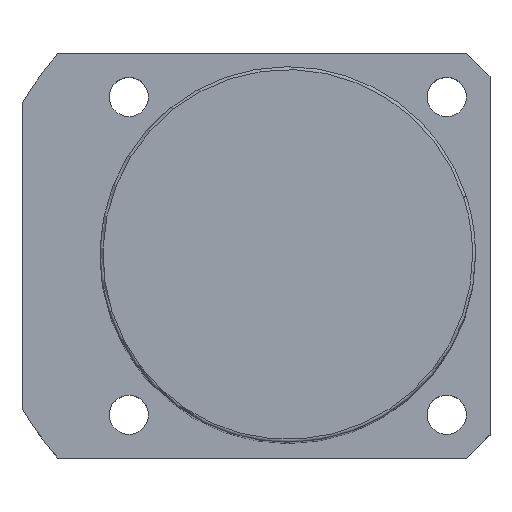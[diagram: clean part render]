
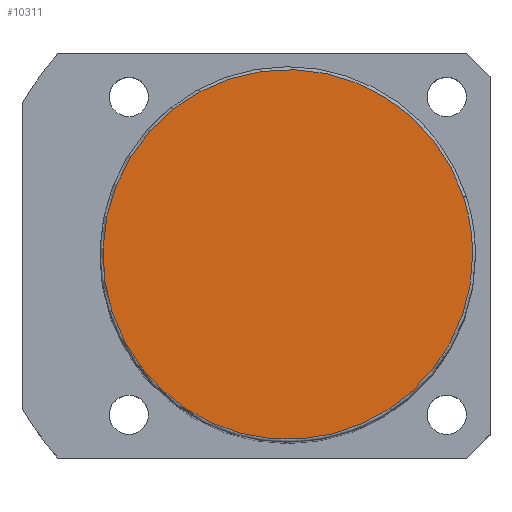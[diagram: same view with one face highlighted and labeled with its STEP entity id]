
A CAD part, top view. The second image highlights one B-rep face of the part: STEP entity #10311.
In plain terms, the highlighted planar face has unit normal (0, 0, 1).
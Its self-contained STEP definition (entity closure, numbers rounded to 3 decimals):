
#10277=CARTESIAN_POINT('',(32.0,0.0,151.0));
#10278=VERTEX_POINT('',#10277);
#10279=CARTESIAN_POINT('',(30.434,9.889,151.0));
#10280=VERTEX_POINT('',#10279);
#10281=CARTESIAN_POINT('',(0.0,0.0,151.0));
#10282=DIRECTION('',(0.0,0.0,1.0));
#10283=DIRECTION('',(1.0,0.0,0.0));
#10284=AXIS2_PLACEMENT_3D('',#10281,#10282,#10283);
#10285=CIRCLE('',#10284,32.0);
#10286=EDGE_CURVE('no 4900',#10278,#10280,#10285,.T.);
#10287=ORIENTED_EDGE('',*,*,#10286,.T.);
#10288=CARTESIAN_POINT('',(-30.434,-9.889,151.0));
#10289=VERTEX_POINT('',#10288);
#10290=CARTESIAN_POINT('',(0.0,0.0,151.0));
#10291=DIRECTION('',(0.0,0.0,1.0));
#10292=DIRECTION('',(1.0,0.0,0.0));
#10293=AXIS2_PLACEMENT_3D('',#10290,#10291,#10292);
#10294=CIRCLE('',#10293,32.0);
#10295=EDGE_CURVE('no 4906',#10280,#10289,#10294,.T.);
#10296=ORIENTED_EDGE('',*,*,#10295,.T.);
#10297=CARTESIAN_POINT('',(0.0,0.0,151.0));
#10298=DIRECTION('',(0.0,0.0,1.0));
#10299=DIRECTION('',(1.0,0.0,0.0));
#10300=AXIS2_PLACEMENT_3D('',#10297,#10298,#10299);
#10301=CIRCLE('',#10300,32.0);
#10302=EDGE_CURVE('no 4910',#10289,#10278,#10301,.T.);
#10303=ORIENTED_EDGE('',*,*,#10302,.T.);
#10304=EDGE_LOOP('',(#10287,#10296,#10303));
#10305=FACE_OUTER_BOUND('',#10304,.T.);
#10306=CARTESIAN_POINT('',(0.0,0.0,151.0));
#10307=DIRECTION('',(0.0,0.0,1.0));
#10308=DIRECTION('',(1.0,0.0,0.0));
#10309=AXIS2_PLACEMENT_3D('',#10306,#10307,#10308);
#10310=PLANE('',#10309);
#10311=ADVANCED_FACE('no 4891',(#10305),#10310,.T.);
